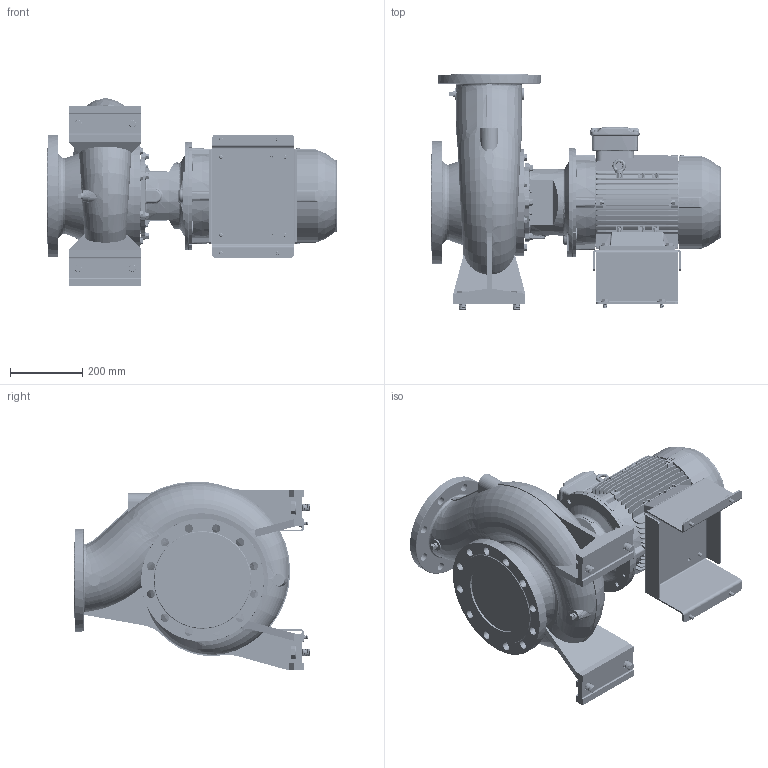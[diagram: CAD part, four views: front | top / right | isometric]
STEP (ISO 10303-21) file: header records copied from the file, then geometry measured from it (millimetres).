
FILE_DESCRIPTION (( 'STEP AP214' ), '1' );
FILE_NAME ('GSD4 150-200_7.5_(132M)_W21.STEP', '2026-07-01T02:50:19', ( '' ), ( '' ), 'SwSTEP 2.0', 'SolidWorks 2024', '' );
FILE_SCHEMA (( 'AUTOMOTIVE_DESIGN' ));
Length unit declared in the file: millimetre
Products named in the file (12): Parametric bolt and washer_SFT-A253B; Parametric Flat Washer_M20; Parametric bolt and washer_SFT-A249B; 140_178 x 148 BP - CGSDA-5246; GSD4 150-200_7.5_(132M)_W21; 150-200-132M_ﾃﾞﾌｫﾙﾄ; Parametric Flat Washer_M10; 132M ALIE3_W21T_B35; Parametric bolt_SFT-A253B; Parametric bolt_SFT-A249B; Parametric bolt and washer_SFT-A403B; Parametric bolt_SFT-A403B
Assembly tree (21 placements, depth 3):
  GSD4 150-200_7.5_(132M)_W21
    150-200-132M_ﾃﾞﾌｫﾙﾄ
    140_178 x 148 BP - CGSDA-5246
    Parametric bolt and washer_SFT-A403B  x4
      Parametric bolt_SFT-A403B
      Parametric Flat Washer_M20
    Parametric bolt and washer_SFT-A249B  x4
      Parametric bolt_SFT-A249B
      Parametric Flat Washer_M10
    Parametric bolt and washer_SFT-A253B  x4
      Parametric bolt_SFT-A253B
      Parametric Flat Washer_M10
    132M ALIE3_W21T_B35
Bounding box: 799.8 x 652 x 522.29 mm (x, y, z)
Volume: 56638857.8 mm3; surface area: 2952795.6 mm2
Topology: 37 solids, 37 shells, 5215 faces, 13528 edges, 8715 vertices
Faces by surface type: plane 2971, cylinder 1343, torus 307, bspline 298, cone 264, sphere 32
Entity records: 201910 total; most frequent: CARTESIAN_POINT 90039, ORIENTED_EDGE 24212, DIRECTION 21573, EDGE_CURVE 12106, VECTOR 7899, LINE 7899, VERTEX_POINT 7806, AXIS2_PLACEMENT_3D 6837
